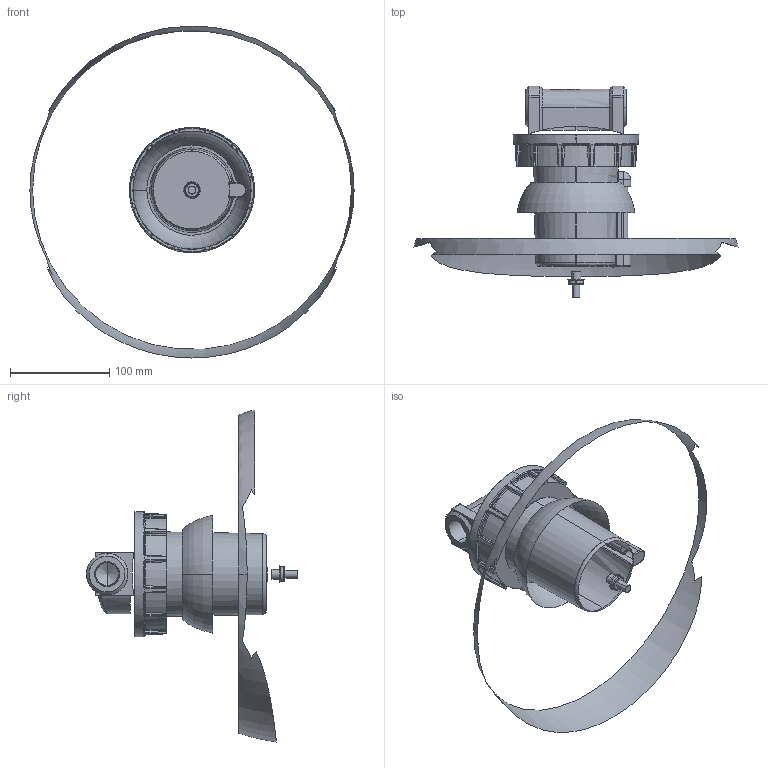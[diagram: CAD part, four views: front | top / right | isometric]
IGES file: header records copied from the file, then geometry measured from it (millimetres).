
Start section: SolidWorks IGES file using analytic representation for surfaces
Global section: file name: D:\Custom\3D繪製\FRL\F602\F602W-06#YB#.IGS,1; native system: 5HSolidWorks 2014; preprocessor: SolidWorks 2014; author: Chieh_Lu; date: 160115.020126; units: millimetre
Bounding box: 326.46 x 213 x 334.27 mm (x, y, z)
Surface area: 117444.5 mm2 (no closed solid volume)
Topology: 0 solids, 0 shells, 343 faces, 4169 edges, 4164 vertices
Faces by surface type: bspline 217, revolution 126
